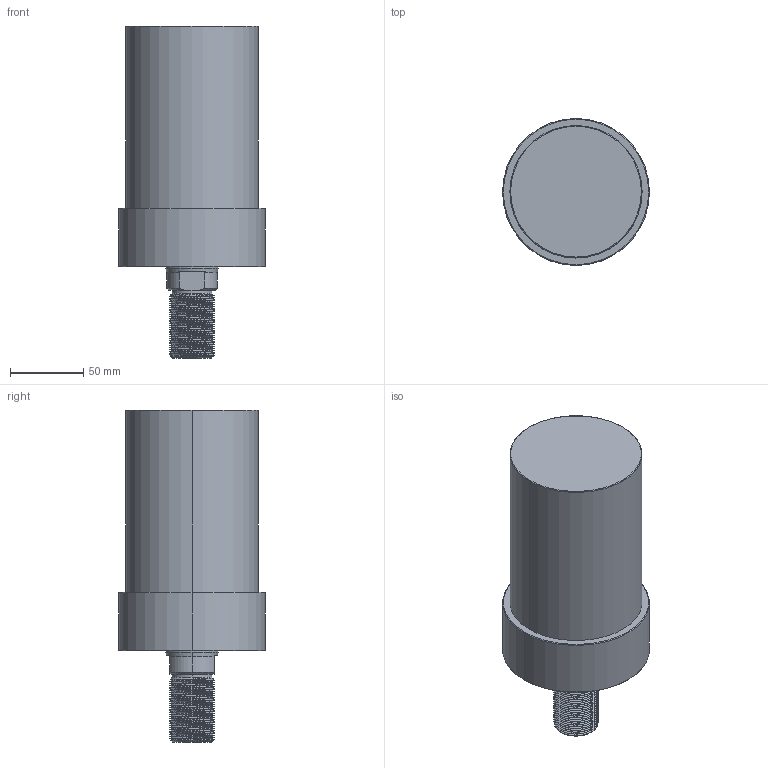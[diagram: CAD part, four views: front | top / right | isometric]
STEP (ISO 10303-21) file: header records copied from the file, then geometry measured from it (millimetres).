
FILE_DESCRIPTION (( 'STEP AP203' ), '1' );
FILE_NAME ('CLLU-090GT-080.STEP', '2020-01-15T01:20:24', ( '' ), ( '' ), 'SwSTEP 2.0', 'SolidWorks 2015', '' );
FILE_SCHEMA (( 'CONFIG_CONTROL_DESIGN' ));
Length unit declared in the file: millimetre
Products named in the file (1): CLLU-090GT-080
Bounding box: 100 x 100 x 226 mm (x, y, z)
Volume: 1140729.3 mm3; surface area: 75379.6 mm2
Topology: 1 solids, 1 shells, 125 faces, 326 edges, 204 vertices
Faces by surface type: cylinder 79, cone 26, plane 12, torus 6, bspline 2
Entity records: 7199 total; most frequent: CARTESIAN_POINT 4410, ORIENTED_EDGE 636, DIRECTION 515, EDGE_CURVE 318, VERTEX_POINT 204, AXIS2_PLACEMENT_3D 202, EDGE_LOOP 134, ADVANCED_FACE 125
